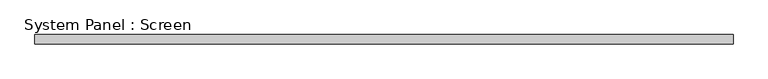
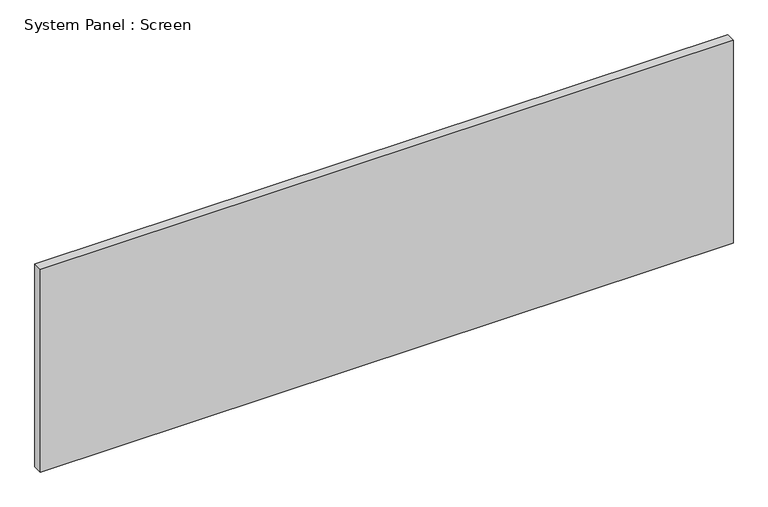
"""IFC4 building model written with IfcOpenShell, lengths in millimetres: plate geometry, System Panel : Screen."""

from ifc_helpers import new_model, si_unit, origin, origin_with_axes, place, context, project, spatial, polyline, outline, extrude, source, transform, mapped, element, save


def system_panel_screen_d6b4d12b(model_context):
    return source(origin(), model_context, "Body", "SweptSolid", [
        extrude(outline(polyline([(929.2844, -12.7), (-929.2844, -12.7), (-929.2844, 12.7), (929.2844, 12.7), (929.2844, -12.7)])), origin_with_axes(), (0.0, 0.0, 1.0), 575.31),
    ])


if __name__ == "__main__":
    model = new_model("IFC4")
    model_context = context("Model", 3, world=origin())
    ifc_project = project(units=[si_unit("LENGTHUNIT", "METRE", prefix="MILLI")], contexts=[model_context])
    site = spatial("IfcSite", under=ifc_project)
    building = spatial("IfcBuilding", under=site)
    placement = place(None, origin())
    system_panel_screen_shape = system_panel_screen_d6b4d12b(model_context)
    element("IfcPlate", 1, ObjectType="System Panel : Screen", at=placement, inside=building, context=model_context, shape_type="MappedRepresentation", body=[
        mapped(system_panel_screen_shape, transform((0.0, 0.0, 0.0), x_axis=(1.0, 0.0, 0.0), y_axis=(0.0, 1.0, 0.0), z_axis=(0.0, 0.0, 1.0))),
    ])
    save(model, "model.ifc")
